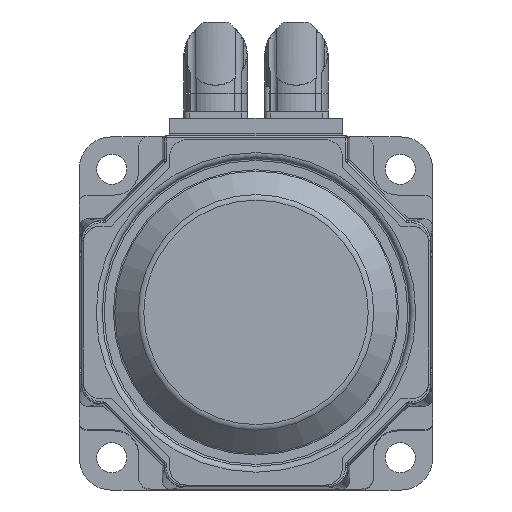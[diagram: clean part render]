
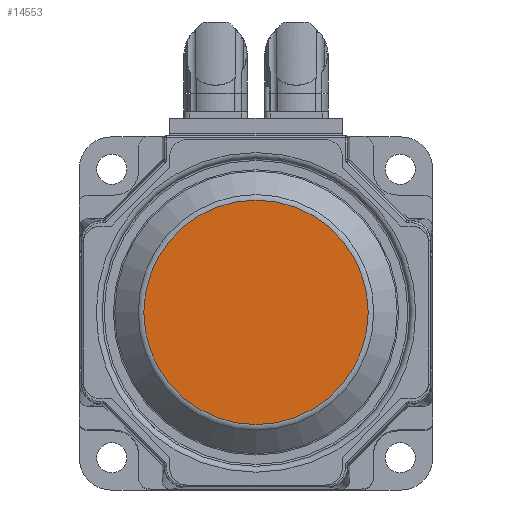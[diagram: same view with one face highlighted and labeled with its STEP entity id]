
A CAD part, top view. The second image highlights one B-rep face of the part: STEP entity #14553.
In plain terms, the highlighted planar face has unit normal (0, 0, 1).
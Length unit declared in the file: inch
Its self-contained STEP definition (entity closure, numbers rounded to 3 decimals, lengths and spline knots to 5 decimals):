
#14533=CARTESIAN_POINT('',(0.0,1.78622,1.69));
#14534=VERTEX_POINT('',#14533);
#14535=CARTESIAN_POINT('',(0.0,0.0,1.69));
#14536=DIRECTION('',(0.0,0.0,-1.0));
#14537=DIRECTION('',(0.0,1.0,0.0));
#14538=AXIS2_PLACEMENT_3D('',#14535,#14536,#14537);
#14539=CIRCLE('',#14538,1.78622);
#14540=EDGE_CURVE('',#14534,#14534,#14539,.T.);
#14545=CARTESIAN_POINT('',(0.0,0.89311,1.69));
#14546=DIRECTION('',(0.0,0.0,1.0));
#14547=DIRECTION('',(1.0,0.0,0.0));
#14548=AXIS2_PLACEMENT_3D('',#14545,#14546,#14547);
#14549=PLANE('',#14548);
#14550=ORIENTED_EDGE('',*,*,#14540,.F.);
#14551=EDGE_LOOP('',(#14550));
#14552=FACE_OUTER_BOUND('',#14551,.T.);
#14553=ADVANCED_FACE('',(#14552),#14549,.T.);
